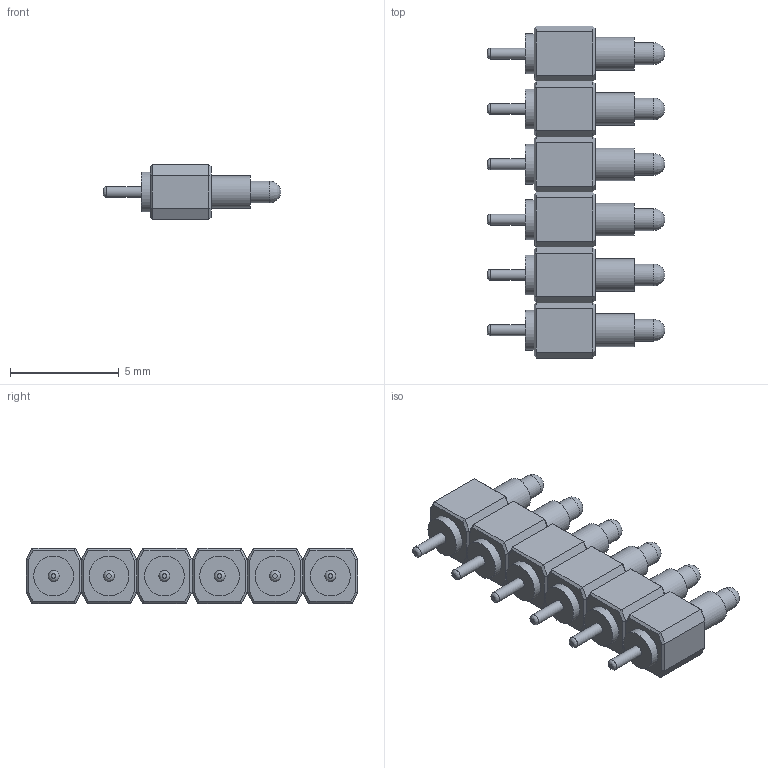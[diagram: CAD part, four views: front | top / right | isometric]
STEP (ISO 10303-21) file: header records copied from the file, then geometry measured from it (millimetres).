
FILE_DESCRIPTION(('FreeCAD Model'),'2;1');
FILE_NAME('Open CASCADE Shape Model','2024-10-25T12:05:41',('Author'),( ''),'Open CASCADE STEP processor 7.5','FreeCAD','Unknown');
FILE_SCHEMA(('AUTOMOTIVE_DESIGN { 1 0 10303 214 1 1 1 1 }'));
Length unit declared in the file: millimetre
Products named in the file (19): 816-22-006; P080; Body129; Contact065; P078; Body134; Contact067; P073; Body130; Contact066; P075; Body128; Contact073; P070; Body154; Contact074; P076; Body148; Contact072
Assembly tree (18 placements, depth 3):
  816-22-006
    P080
      Body129
      Contact065
    P078
      Body134
      Contact067
    P073
      Body130
      Contact066
    P075
      Body128
      Contact073
    P070
      Body154
      Contact074
    P076
      Body148
      Contact072
Bounding box: 8.15 x 15.24 x 2.54 mm (x, y, z)
Volume: 136.4 mm3; surface area: 495.2 mm2
Topology: 12 solids, 12 shells, 228 faces, 450 edges, 264 vertices
Faces by surface type: plane 186, cylinder 30, revolution 12
Full cylindrical faces by diameter (mm): 0.5 x6, 1 x6, 1.5 x12, 1.83 x6
Entity records: 12085 total; most frequent: CARTESIAN_POINT 1981, DIRECTION 1910, LINE 1206, VECTOR 1206, ORIENTED_EDGE 900, PCURVE 900, DEFINITIONAL_REPRESENTATION 900, EDGE_CURVE 450
